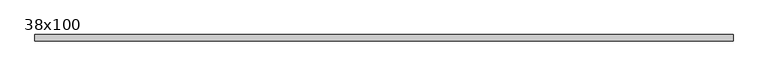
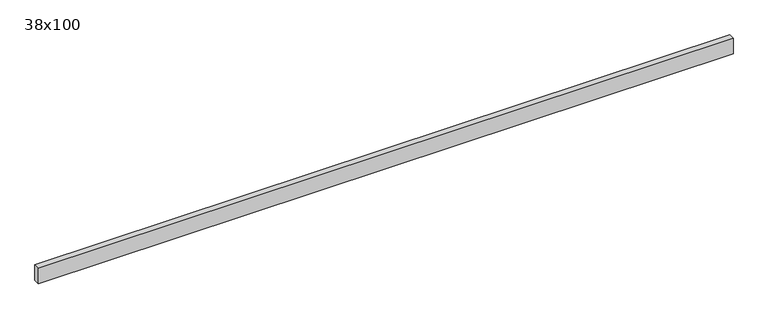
"""IFC4 building model written with IfcOpenShell, lengths in millimetres: beam geometry, Poutre - Bois de construction de dimensions courantes : 38x100."""

from ifc_helpers import new_model, si_unit, frame, origin, place, context, project, spatial, polyline, outline, extrude, source, transform, mapped, element, save


def beam_38x100_0e78174e(model_context):
    return source(origin(), model_context, "Body", "SweptSolid", [
        extrude(outline(polyline([(2129.0, 19.05), (2129.0, -19.05), (-2129.0, -19.05), (-2129.0, 19.05), (2129.0, 19.05)])), frame((0.0, 0.0, -50.0), z_axis=(0.0, 0.0, 1.0), x_axis=(1.0, 0.0, 0.0)), (0.0, 0.0, 1.0), 100.0),
    ])


if __name__ == "__main__":
    model = new_model("IFC4")
    model_context = context("Model", 3, world=origin())
    ifc_project = project(units=[si_unit("LENGTHUNIT", "METRE", prefix="MILLI")], contexts=[model_context])
    site = spatial("IfcSite", under=ifc_project)
    building = spatial("IfcBuilding", under=site)
    placement = place(None, origin())
    beam_38x100_shape = beam_38x100_0e78174e(model_context)
    element("IfcBeam", 1, ObjectType="Poutre - Bois de construction de dimensions courantes : 38x100", at=placement, inside=building, context=model_context, shape_type="MappedRepresentation", body=[
        mapped(beam_38x100_shape, transform((0.0, 0.0, 0.0), x_axis=(1.0, 0.0, 0.0), y_axis=(0.0, 1.0, 0.0), z_axis=(0.0, 0.0, 1.0))),
    ])
    save(model, "model.ifc")
